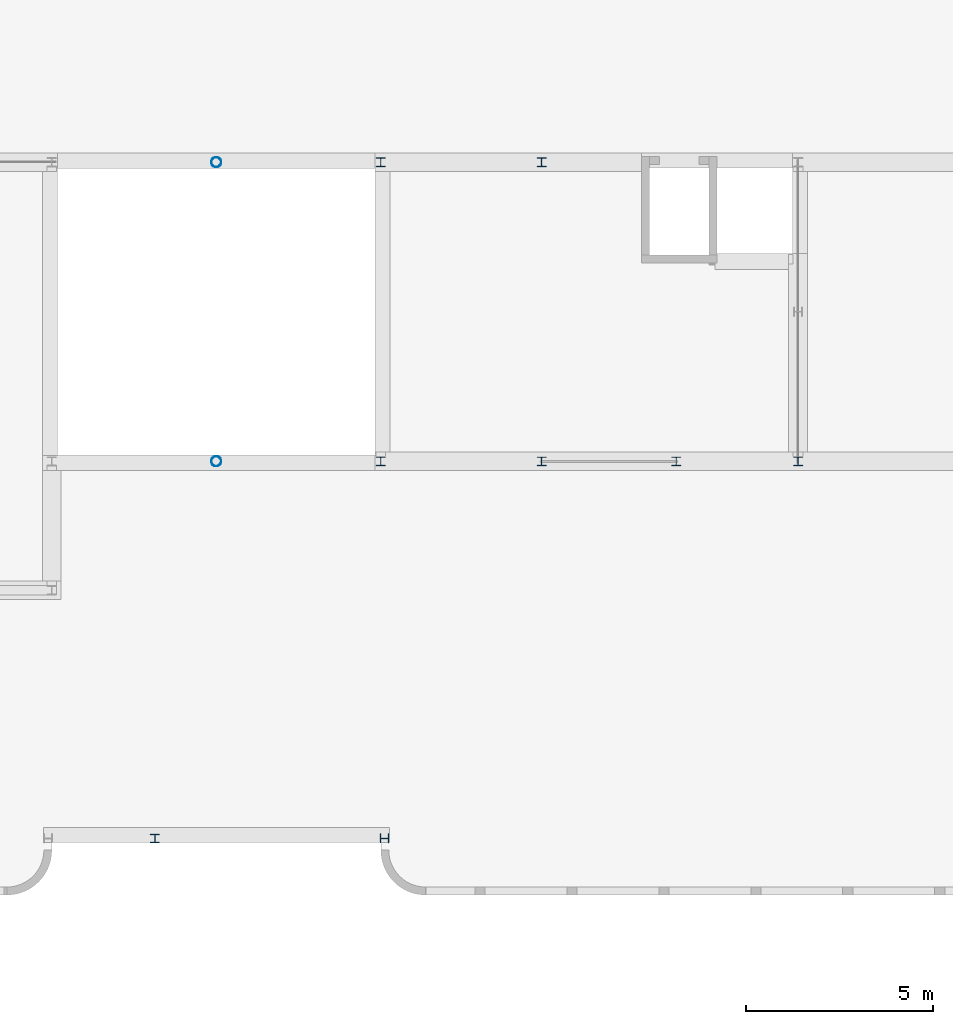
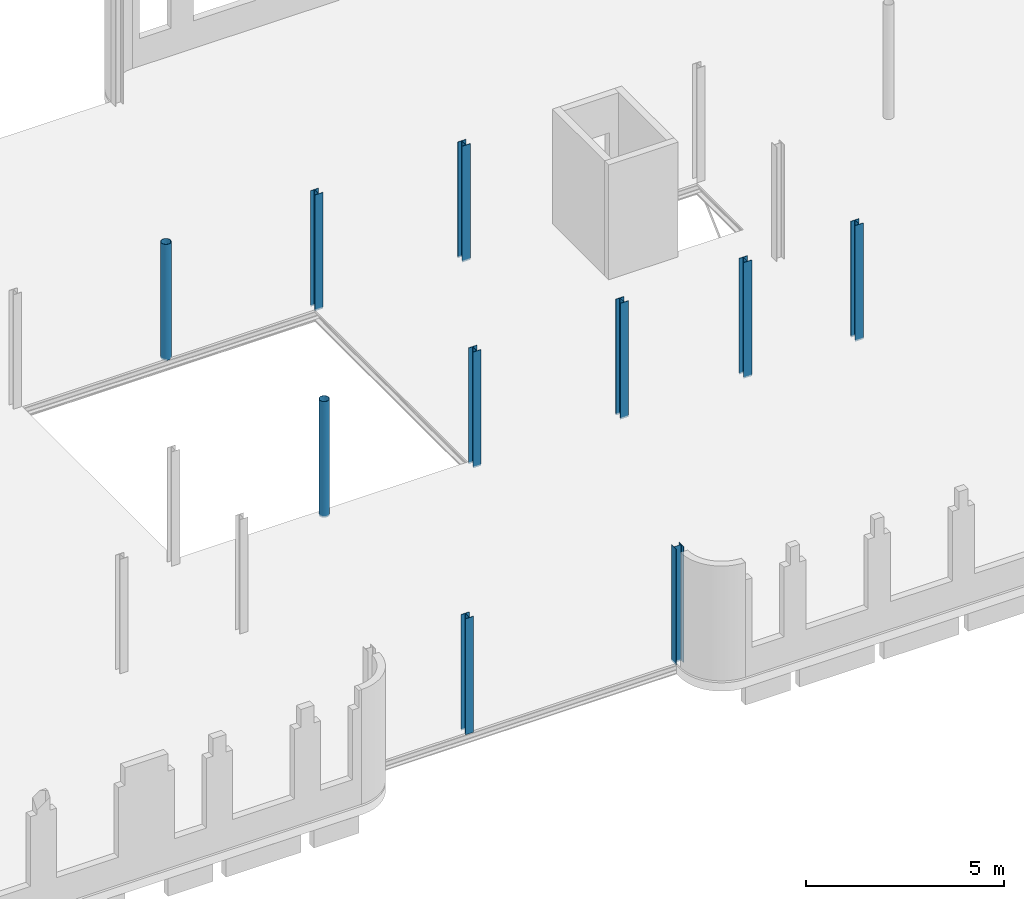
# One storey, part 9 of 25: 10 columns.
"""IFC2X3 building model written with IfcOpenShell, lengths in millimetres."""

from ifc_helpers import new_model, entity, si_unit, converted_unit, derived_unit, direction, frame, frame_2d, origin, origin_2d_with_axis, place, context, subcontext, project, spatial, hollow_circle, i_section, extrude, source, transform, mapped, material, type_object, type_shapes, element, save


model = new_model("IFC2X3")

# Units and contexts
model_context = context("Model", 3, precision=0.01, world=origin(), true_north=direction((6.123031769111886e-17, 1.0)))
body_context = subcontext(model_context, "Body", "Model", "MODEL_VIEW")
ifc_project = project(units=[si_unit("LENGTHUNIT", "METRE", prefix="MILLI"), si_unit("AREAUNIT", "SQUARE_METRE"), si_unit("VOLUMEUNIT", "CUBIC_METRE"), derived_unit("MASSDENSITYUNIT", [(si_unit("MASSUNIT", "GRAM", prefix="KILO"), 1), (si_unit("LENGTHUNIT", "METRE"), -3)]), si_unit("MASSUNIT", "GRAM", prefix="KILO"), converted_unit("PLANEANGLEUNIT", "DEGREE", entity("IfcPlaneAngleMeasure", 0.017453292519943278), si_unit("PLANEANGLEUNIT", "RADIAN"), dimensions=[0, 0, 0, 0, 0, 0, 0])], contexts=[model_context])

# Site, building, storey
site_placement = place(None, origin())
site = spatial("IfcSite", under=ifc_project, at=site_placement, Name="Default", CompositionType="ELEMENT")
building_placement = place(site_placement, origin())
building = spatial("IfcBuilding", under=site, at=building_placement, Name="AT constructie", CompositionType="ELEMENT")
storey_placement = place(building_placement, frame((0.0, 0.0, 3864.0)))
storey = spatial("IfcBuildingStorey", under=building, at=storey_placement, Name="01 eerste verdieping", CompositionType="ELEMENT", Elevation=3864.0)

# Columns
ifc_material = material(Name="h2_staal_S355")
column_type_1 = type_object("IfcColumnType", Name="kolom_gen_HEA240", PredefinedType="COLUMN", material=ifc_material)
shared_shape_1 = source(origin(), body_context, "Body", "SweptSolid", [
    extrude(i_section(OverallWidth=240.00000000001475, OverallDepth=229.9999999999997, WebThickness=7.499999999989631, FlangeThickness=12.000000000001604, FilletRadius=21.0, at=frame_2d((1.7323031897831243e-11, 4.334310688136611e-12), x_axis=(1.0, 0.0))), frame((82546.87463111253, 31271.04350852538, 3764.0)), (0.0, 0.0, 1.0), 3578.999999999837),
])
type_shapes(column_type_1, [shared_shape_1])
column_1_placement = place(storey_placement, frame((0.0, 0.0, -3864.0)))
element("IfcColumn", 1, at=column_1_placement, inside=storey, type_object=column_type_1, material=ifc_material, Name="NLRS_28_SC_TLB_kolom HEA_gen_AT:kolom_gen_HEA240", ObjectType="NLRS_28_SC_TLB_kolom HEA_gen_AT:kolom_gen_HEA240", context=body_context, shape_type="MappedRepresentation", body=[
    mapped(shared_shape_1, transform((0.0, 0.0, 0.0), scale=1.0)),
])
column_type_2 = type_object("IfcColumnType", Name="kolom_gen_HEA240", PredefinedType="COLUMN", material=ifc_material)
shared_shape_2 = source(origin(), body_context, "Body", "SweptSolid", [
    extrude(i_section(OverallWidth=240.00000000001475, OverallDepth=229.9999999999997, WebThickness=7.499999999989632, FlangeThickness=12.000000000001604, FilletRadius=21.0, at=origin_2d_with_axis()), frame((78246.8746311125, 31271.0435085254, 3764.0)), (0.0, 0.0, 1.0), 3578.999999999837),
])
type_shapes(column_type_2, [shared_shape_2])
column_2_placement = place(storey_placement, frame((0.0, 0.0, -3864.0)))
element("IfcColumn", 2, at=column_2_placement, inside=storey, type_object=column_type_2, material=ifc_material, Name="NLRS_28_SC_TLB_kolom HEA_gen_AT:kolom_gen_HEA240", ObjectType="NLRS_28_SC_TLB_kolom HEA_gen_AT:kolom_gen_HEA240", context=body_context, shape_type="MappedRepresentation", body=[
    mapped(shared_shape_2, transform((0.0, 0.0, 0.0), scale=1.0)),
])
column_type_3 = type_object("IfcColumnType", Name="kolom_gen_ø273x8", PredefinedType="COLUMN", material=ifc_material)
shared_shape_3 = source(origin(), body_context, "Body", "SweptSolid", [
    extrude(hollow_circle(Radius=136.5, WallThickness=8.0, at=origin_2d_with_axis()), frame((73846.87463111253, 31271.043508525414, 3764.0), z_axis=(0.0, 0.0, 1.0), x_axis=(-1.0, 0.0, 0.0)), (0.0, 0.0, 1.0), 3578.999999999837),
])
type_shapes(column_type_3, [shared_shape_3])
column_3_placement = place(storey_placement, frame((0.0, 0.0, -3864.0)))
element("IfcColumn", 3, at=column_3_placement, inside=storey, type_object=column_type_3, material=ifc_material, Name="NLRS_28_SC_TLB_kolom buis_gen_AT:kolom_gen_ø273x8", ObjectType="NLRS_28_SC_TLB_kolom buis_gen_AT:kolom_gen_ø273x8", context=body_context, shape_type="MappedRepresentation", body=[
    mapped(shared_shape_3, transform((0.0, 0.0, 0.0), scale=1.0)),
])
column_type_4 = type_object("IfcColumnType", Name="kolom_gen_HEA240", PredefinedType="COLUMN", material=ifc_material)
shared_shape_4 = source(origin(), body_context, "Body", "SweptSolid", [
    extrude(i_section(OverallWidth=240.00000000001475, OverallDepth=229.9999999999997, WebThickness=7.499999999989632, FlangeThickness=12.000000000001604, FilletRadius=21.0, at=frame_2d((0.0, 4.334310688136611e-12), x_axis=(1.0, 0.0))), frame((82546.87463111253, 23271.04350852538, 3764.0)), (0.0, 0.0, 1.0), 3578.999999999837),
])
type_shapes(column_type_4, [shared_shape_4])
column_4_placement = place(storey_placement, frame((0.0, 0.0, -3864.0)))
element("IfcColumn", 4, at=column_4_placement, inside=storey, type_object=column_type_4, material=ifc_material, Name="NLRS_28_SC_TLB_kolom HEA_gen_AT:kolom_gen_HEA240", ObjectType="NLRS_28_SC_TLB_kolom HEA_gen_AT:kolom_gen_HEA240", context=body_context, shape_type="MappedRepresentation", body=[
    mapped(shared_shape_4, transform((0.0, 0.0, 0.0), scale=1.0)),
])
column_type_5 = type_object("IfcColumnType", Name="kolom_gen_HEA240", PredefinedType="COLUMN", material=ifc_material)
shared_shape_5 = source(origin(), body_context, "Body", "SweptSolid", [
    extrude(i_section(OverallWidth=240.00000000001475, OverallDepth=229.9999999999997, WebThickness=7.499999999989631, FlangeThickness=12.000000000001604, FilletRadius=21.0, at=frame_2d((1.7323031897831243e-11, 0.0), x_axis=(1.0, 0.0))), frame((78246.87463111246, 23271.0435085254, 3764.0)), (0.0, 0.0, 1.0), 3578.999999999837),
])
type_shapes(column_type_5, [shared_shape_5])
column_5_placement = place(storey_placement, frame((0.0, 0.0, -3864.0)))
element("IfcColumn", 5, at=column_5_placement, inside=storey, type_object=column_type_5, material=ifc_material, Name="NLRS_28_SC_TLB_kolom HEA_gen_AT:kolom_gen_HEA240", ObjectType="NLRS_28_SC_TLB_kolom HEA_gen_AT:kolom_gen_HEA240", context=body_context, shape_type="MappedRepresentation", body=[
    mapped(shared_shape_5, transform((0.0, 0.0, 0.0), scale=1.0)),
])
column_type_6 = type_object("IfcColumnType", Name="kolom_gen_ø273x8", PredefinedType="COLUMN", material=ifc_material)
shared_shape_6 = source(origin(), body_context, "Body", "SweptSolid", [
    extrude(hollow_circle(Radius=136.5, WallThickness=8.0, at=origin_2d_with_axis()), frame((73846.87463111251, 23271.04350852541, 3764.0), z_axis=(0.0, 0.0, 1.0), x_axis=(-1.0, 0.0, 0.0)), (0.0, 0.0, 1.0), 3578.999999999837),
])
type_shapes(column_type_6, [shared_shape_6])
column_6_placement = place(storey_placement, frame((0.0, 0.0, -3864.0)))
element("IfcColumn", 6, at=column_6_placement, inside=storey, type_object=column_type_6, material=ifc_material, Name="NLRS_28_SC_TLB_kolom buis_gen_AT:kolom_gen_ø273x8", ObjectType="NLRS_28_SC_TLB_kolom buis_gen_AT:kolom_gen_ø273x8", context=body_context, shape_type="MappedRepresentation", body=[
    mapped(shared_shape_6, transform((0.0, 0.0, 0.0), scale=1.0)),
])
column_type_7 = type_object("IfcColumnType", Name="kolom_gen_HEA240", PredefinedType="COLUMN", material=ifc_material)
shared_shape_7 = source(origin(), body_context, "Body", "SweptSolid", [
    extrude(i_section(OverallWidth=240.00000000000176, OverallDepth=229.99999999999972, WebThickness=7.499999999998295, FlangeThickness=11.999999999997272, FilletRadius=21.0, at=frame_2d((0.0, -8.661515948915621e-12), x_axis=(1.0, 0.0))), frame((78348.37463291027, 13186.043511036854, 3764.0), z_axis=(0.0, 0.0, 1.0), x_axis=(0.0, 1.0, 0.0)), (0.0, 0.0, 1.0), 3578.999999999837),
])
type_shapes(column_type_7, [shared_shape_7])
column_7_placement = place(storey_placement, frame((0.0, 0.0, -3864.0)))
element("IfcColumn", 7, at=column_7_placement, inside=storey, type_object=column_type_7, material=ifc_material, Name="NLRS_28_SC_TLB_kolom HEA_gen_AT:kolom_gen_HEA240", ObjectType="NLRS_28_SC_TLB_kolom HEA_gen_AT:kolom_gen_HEA240", context=body_context, shape_type="MappedRepresentation", body=[
    mapped(shared_shape_7, transform((0.0, 0.0, 0.0), scale=1.0)),
])
column_type_8 = type_object("IfcColumnType", Name="kolom_gen_HEA240", PredefinedType="COLUMN", material=ifc_material)
shared_shape_8 = source(origin(), body_context, "Body", "SweptSolid", [
    extrude(i_section(OverallWidth=239.9999999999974, OverallDepth=229.99999999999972, WebThickness=7.500000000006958, FlangeThickness=11.999999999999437, FilletRadius=21.0, at=frame_2d((8.661515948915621e-12, 2.1671553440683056e-12), x_axis=(1.0, 0.0))), frame((72204.37460725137, 13186.04351103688, 3764.0), z_axis=(0.0, 0.0, 1.0), x_axis=(-1.0, 0.0, 0.0)), (0.0, 0.0, 1.0), 3578.999999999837),
])
type_shapes(column_type_8, [shared_shape_8])
column_8_placement = place(storey_placement, frame((0.0, 0.0, -3864.0)))
element("IfcColumn", 8, at=column_8_placement, inside=storey, type_object=column_type_8, material=ifc_material, Name="NLRS_28_SC_TLB_kolom HEA_gen_AT:kolom_gen_HEA240", ObjectType="NLRS_28_SC_TLB_kolom HEA_gen_AT:kolom_gen_HEA240", context=body_context, shape_type="MappedRepresentation", body=[
    mapped(shared_shape_8, transform((0.0, 0.0, 0.0), scale=1.0)),
])
column_type_9 = type_object("IfcColumnType", Name="kolom_gen_HEA240", PredefinedType="COLUMN", material=ifc_material)
shared_shape_9 = source(origin(), body_context, "Body", "SweptSolid", [
    extrude(i_section(OverallWidth=240.00000000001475, OverallDepth=229.99999999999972, WebThickness=7.499999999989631, FlangeThickness=12.000000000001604, FilletRadius=21.0, at=frame_2d((1.7323031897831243e-11, -8.661515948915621e-12), x_axis=(1.0, 0.0))), frame((89407.37463111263, 23271.04350852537, 3764.0)), (0.0, 0.0, 1.0), 3578.999999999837),
])
type_shapes(column_type_9, [shared_shape_9])
column_9_placement = place(storey_placement, frame((0.0, 0.0, -3864.0)))
element("IfcColumn", 9, at=column_9_placement, inside=storey, type_object=column_type_9, material=ifc_material, Name="NLRS_28_SC_TLB_kolom HEA_gen_AT:kolom_gen_HEA240", ObjectType="NLRS_28_SC_TLB_kolom HEA_gen_AT:kolom_gen_HEA240", context=body_context, shape_type="MappedRepresentation", body=[
    mapped(shared_shape_9, transform((0.0, 0.0, 0.0), scale=1.0)),
])
column_type_10 = type_object("IfcColumnType", Name="kolom_gen_HEA240", PredefinedType="COLUMN", material=ifc_material)
shared_shape_10 = source(origin(), body_context, "Body", "SweptSolid", [
    extrude(i_section(OverallWidth=240.00000000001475, OverallDepth=229.9999999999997, WebThickness=7.499999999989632, FlangeThickness=12.000000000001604, FilletRadius=21.0, at=origin_2d_with_axis()), frame((86146.8746311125, 23271.04350852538, 3764.0)), (0.0, 0.0, 1.0), 3578.999999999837),
])
type_shapes(column_type_10, [shared_shape_10])
column_10_placement = place(storey_placement, frame((0.0, 0.0, -3864.0)))
element("IfcColumn", 10, at=column_10_placement, inside=storey, type_object=column_type_10, material=ifc_material, Name="NLRS_28_SC_TLB_kolom HEA_gen_AT:kolom_gen_HEA240", ObjectType="NLRS_28_SC_TLB_kolom HEA_gen_AT:kolom_gen_HEA240", context=body_context, shape_type="MappedRepresentation", body=[
    mapped(shared_shape_10, transform((0.0, 0.0, 0.0), scale=1.0)),
])

save(model, "model.ifc")
